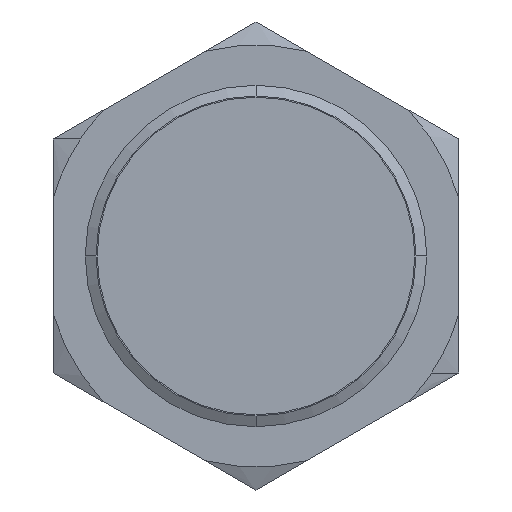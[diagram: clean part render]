
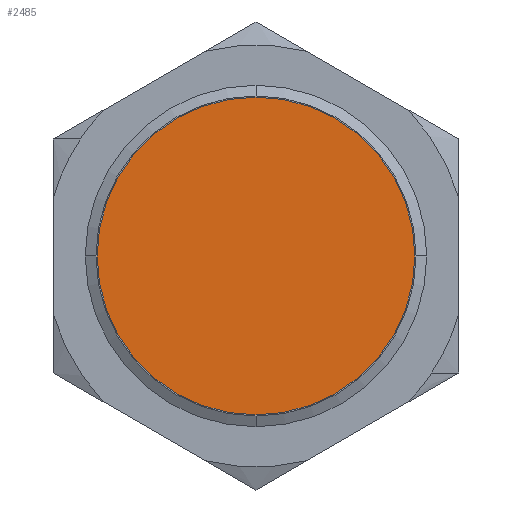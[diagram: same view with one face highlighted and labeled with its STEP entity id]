
A CAD part, left-side view. The second image highlights one B-rep face of the part: STEP entity #2485.
In plain terms, the highlighted planar face has unit normal (-1, 0, 0).
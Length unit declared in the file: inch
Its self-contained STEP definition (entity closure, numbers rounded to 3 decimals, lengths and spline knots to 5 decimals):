
#16785 = VERTEX_POINT ( 'NONE', #17829 ) ;
#17034 = VERTEX_POINT ( 'NONE', #18064 ) ;
#17295 = EDGE_CURVE ( 'NONE', #17034, #16785, #18213, .T. ) ;
#1335 = EDGE_CURVE ( 'NONE', #16785, #17034, #3440, .T. ) ;
#17829 = CARTESIAN_POINT ( 'NONE',  ( -0.118, 0., -0.041 ) ) ;
#18064 = CARTESIAN_POINT ( 'NONE',  ( -0.118, 0., -1.141 ) ) ;
#1760 = ORIENTED_EDGE ( 'NONE', *, *, #1335, .F. ) ;
#18213 = CIRCLE ( 'NONE', #18214, 0.55 ) ;
#18214 = AXIS2_PLACEMENT_3D ( 'NONE', #18215, #18216, #18217 ) ;
#18215 = CARTESIAN_POINT ( 'NONE',  ( -0.118, 0., -0.591 ) ) ;
#18216 = DIRECTION ( 'NONE',  ( 1., 0., 0. ) ) ;
#18217 = DIRECTION ( 'NONE',  ( 0., 0., -1. ) ) ;
#2025 = ORIENTED_EDGE ( 'NONE', *, *, #17295, .F. ) ;
#2215 = EDGE_LOOP ( 'NONE', ( #2025, #1760 ) ) ;
#2485 = ADVANCED_FACE ( 'NONE', ( #5786 ), #5787, .F. ) ;
#3440 = CIRCLE ( 'NONE', #3441, 0.55 ) ;
#3441 = AXIS2_PLACEMENT_3D ( 'NONE', #3442, #3443, #3444 ) ;
#3442 = CARTESIAN_POINT ( 'NONE',  ( -0.118, 0., -0.591 ) ) ;
#3443 = DIRECTION ( 'NONE',  ( 1., 0., 0. ) ) ;
#3444 = DIRECTION ( 'NONE',  ( 0., 0., -1. ) ) ;
#5786 = FACE_OUTER_BOUND ( 'NONE', #2215, .T. ) ;
#5787 = PLANE ( 'NONE',  #5788 ) ;
#5788 = AXIS2_PLACEMENT_3D ( 'NONE', #5789, #5790, #5791 ) ;
#5789 = CARTESIAN_POINT ( 'NONE',  ( -0.118, 0., -0.591 ) ) ;
#5790 = DIRECTION ( 'NONE',  ( 1., 0., 0. ) ) ;
#5791 = DIRECTION ( 'NONE',  ( 0., 0., -1. ) ) ;
